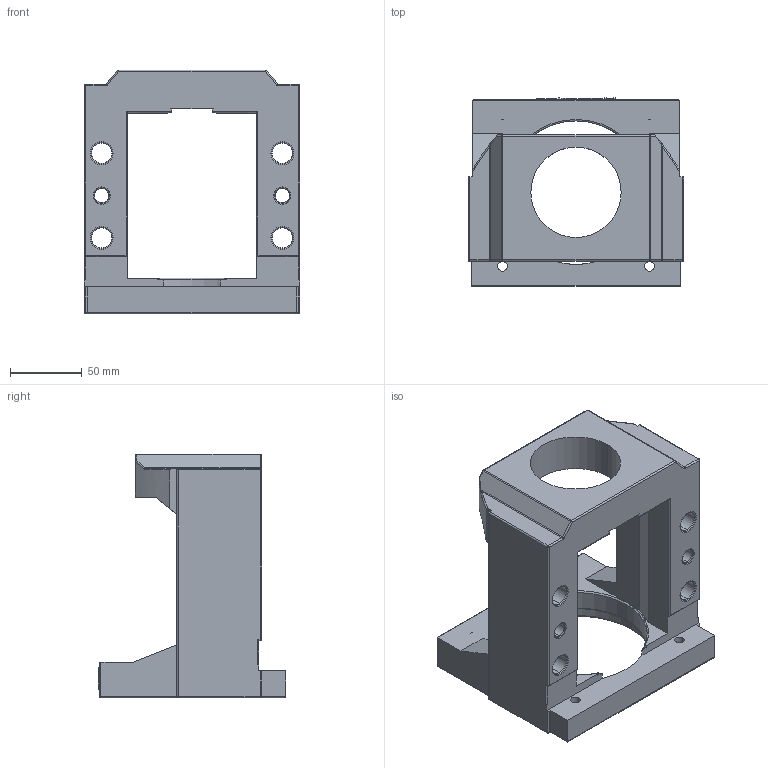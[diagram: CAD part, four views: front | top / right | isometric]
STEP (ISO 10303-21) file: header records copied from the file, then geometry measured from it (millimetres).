
FILE_DESCRIPTION((''),'2;1');
FILE_NAME('M130G-FK25-B','2019-04-20T',('ASUS'),(''),'PRO/ENGINEER BY PARAMETRIC TECHNOLOGY CORPORATION, 2010280','PRO/ENGINEER BY PARAMETRIC TECHNOLOGY CORPORATION, 2010280','');
FILE_SCHEMA(('CONFIG_CONTROL_DESIGN'));
Length unit declared in the file: millimetre
Products named in the file (1): M130G-FK25-B
Bounding box: 150 x 131 x 170 mm (x, y, z)
Volume: 807508.4 mm3; surface area: 130801.1 mm2
Topology: 1 solids, 1 shells, 364 faces, 937 edges, 572 vertices
Faces by surface type: plane 125, cylinder 99, torus 55, extrusion 47, cone 20, sphere 14, bspline 4
Entity records: 11867 total; most frequent: CARTESIAN_POINT 3132, ORIENTED_EDGE 1830, DIRECTION 1735, EDGE_CURVE 915, AXIS2_PLACEMENT_3D 604, VERTEX_POINT 572, VECTOR 527, LINE 480
